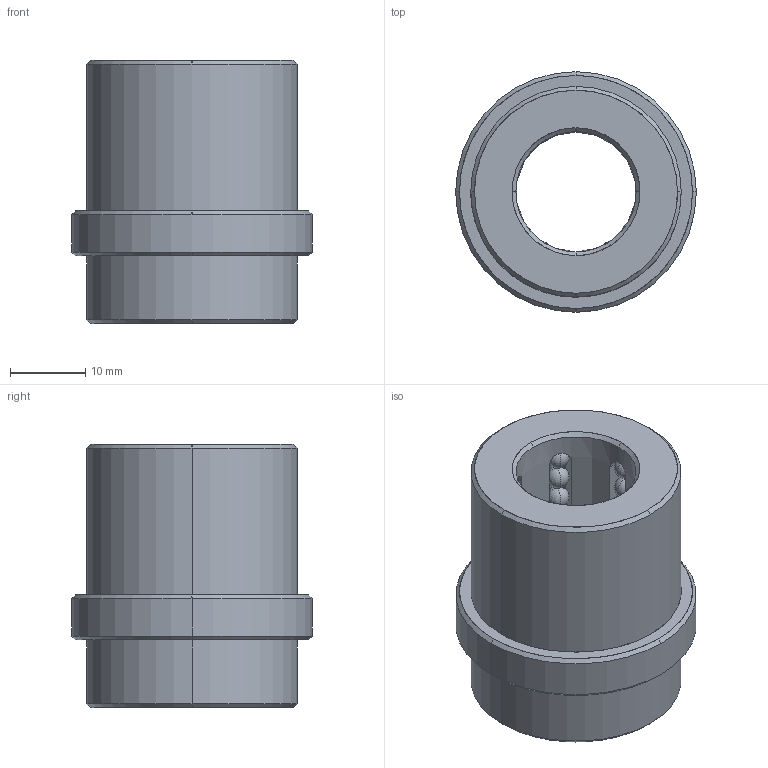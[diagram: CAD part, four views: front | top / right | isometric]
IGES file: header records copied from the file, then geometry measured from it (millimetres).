
Start section: START RECORD GO HERE.
Global section: file name: B8021626.igs; native system: DASSAULT SYSTEMES CATIA V5 R20 - www.3ds.com; preprocessor: CATIA Version 5 Release 20 ; author: Utente; organization: NB04-ASUS; date: 20200419.150328; units: millimetre
Bounding box: 32 x 32 x 35 mm (x, y, z)
Surface area: 8601.8 mm2 (no closed solid volume)
Topology: 0 solids, 0 shells, 282 faces, 1188 edges, 756 vertices
Faces by surface type: revolution 260, plane 22
